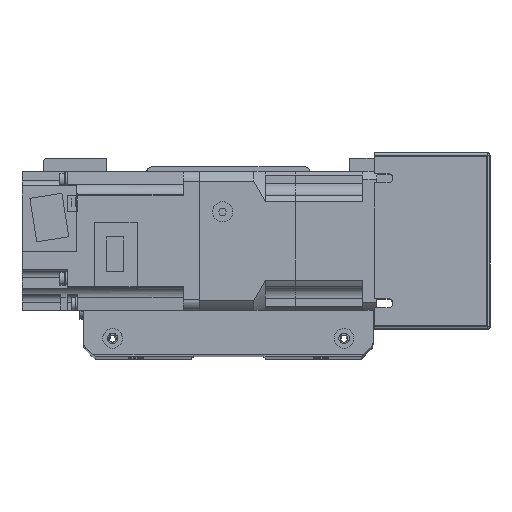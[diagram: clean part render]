
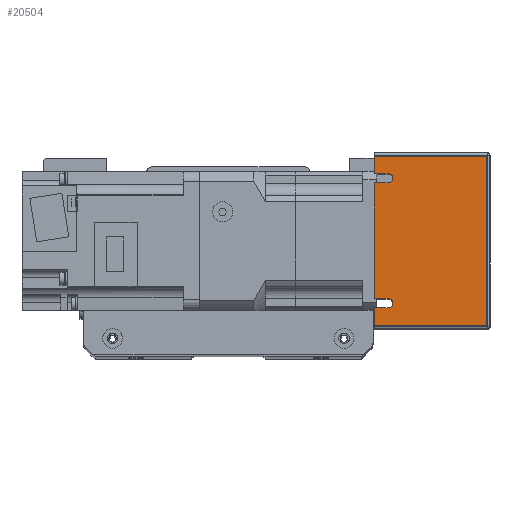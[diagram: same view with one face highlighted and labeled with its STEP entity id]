
A CAD part, top view. The second image highlights one B-rep face of the part: STEP entity #20504.
In plain terms, the highlighted planar face has unit normal (0, 0, 1) as drawn and (-1, 0, 0) by its records, which use the part's own axes.
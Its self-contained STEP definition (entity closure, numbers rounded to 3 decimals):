
#665=PLANE('',#22661);
#1995=LINE('',#34265,#3619);
#2002=LINE('',#34281,#3626);
#2011=LINE('',#34301,#3635);
#2019=LINE('',#34319,#3643);
#2034=LINE('',#34362,#3658);
#2036=LINE('',#34369,#3660);
#2039=LINE('',#34378,#3663);
#2044=LINE('',#34392,#3668);
#2045=LINE('',#34394,#3669);
#2046=LINE('',#34395,#3670);
#3619=VECTOR('',#27876,10.);
#3626=VECTOR('',#27887,10.);
#3635=VECTOR('',#27900,10.);
#3643=VECTOR('',#27912,10.);
#3658=VECTOR('',#27957,10.);
#3660=VECTOR('',#27965,10.);
#3663=VECTOR('',#27974,10.);
#3668=VECTOR('',#27987,10.);
#3669=VECTOR('',#27988,10.);
#3670=VECTOR('',#27989,10.);
#5952=FACE_OUTER_BOUND('',#7524,.T.);
#7524=EDGE_LOOP('',(#17820,#17821,#17822,#17823,#17824,#17825,#17826,#17827,
#17828,#17829,#17830,#17831));
#8646=CIRCLE('',#22640,2.);
#8651=CIRCLE('',#22648,2.);
#10315=VERTEX_POINT('',#34262);
#10316=VERTEX_POINT('',#34264);
#10322=VERTEX_POINT('',#34278);
#10323=VERTEX_POINT('',#34280);
#10331=VERTEX_POINT('',#34298);
#10332=VERTEX_POINT('',#34300);
#10339=VERTEX_POINT('',#34316);
#10340=VERTEX_POINT('',#34318);
#10353=VERTEX_POINT('',#34361);
#10358=VERTEX_POINT('',#34376);
#10363=VERTEX_POINT('',#34391);
#10364=VERTEX_POINT('',#34393);
#12847=EDGE_CURVE('',#10315,#10316,#1995,.T.);
#12854=EDGE_CURVE('',#10322,#10323,#2002,.T.);
#12863=EDGE_CURVE('',#10331,#10332,#2011,.T.);
#12871=EDGE_CURVE('',#10339,#10340,#2019,.T.);
#12878=EDGE_CURVE('',#10323,#10315,#8646,.T.);
#12889=EDGE_CURVE('',#10340,#10331,#8651,.T.);
#12895=EDGE_CURVE('',#10353,#10332,#2034,.T.);
#12899=EDGE_CURVE('',#10339,#10316,#2036,.T.);
#12904=EDGE_CURVE('',#10322,#10358,#2039,.T.);
#12911=EDGE_CURVE('',#10358,#10363,#2044,.T.);
#12912=EDGE_CURVE('',#10363,#10364,#2045,.T.);
#12913=EDGE_CURVE('',#10364,#10353,#2046,.T.);
#17820=ORIENTED_EDGE('',*,*,#12847,.F.);
#17821=ORIENTED_EDGE('',*,*,#12878,.F.);
#17822=ORIENTED_EDGE('',*,*,#12854,.F.);
#17823=ORIENTED_EDGE('',*,*,#12904,.T.);
#17824=ORIENTED_EDGE('',*,*,#12911,.T.);
#17825=ORIENTED_EDGE('',*,*,#12912,.T.);
#17826=ORIENTED_EDGE('',*,*,#12913,.T.);
#17827=ORIENTED_EDGE('',*,*,#12895,.T.);
#17828=ORIENTED_EDGE('',*,*,#12863,.F.);
#17829=ORIENTED_EDGE('',*,*,#12889,.F.);
#17830=ORIENTED_EDGE('',*,*,#12871,.F.);
#17831=ORIENTED_EDGE('',*,*,#12899,.T.);
#20504=ADVANCED_FACE('',(#5952),#665,.F.);
#22640=AXIS2_PLACEMENT_3D('',#34332,#27924,#27925);
#22648=AXIS2_PLACEMENT_3D('',#34350,#27946,#27947);
#22661=AXIS2_PLACEMENT_3D('',#34390,#27985,#27986);
#27876=DIRECTION('',(0.,0.,-1.));
#27887=DIRECTION('',(0.,0.,1.));
#27900=DIRECTION('',(0.,0.,-1.));
#27912=DIRECTION('',(0.,0.,1.));
#27924=DIRECTION('center_axis',(-1.,0.,0.));
#27925=DIRECTION('ref_axis',(0.,0.,-1.));
#27946=DIRECTION('center_axis',(-1.,0.,0.));
#27947=DIRECTION('ref_axis',(0.,0.,-1.));
#27957=DIRECTION('',(0.,-1.,0.));
#27965=DIRECTION('',(0.,-1.,0.));
#27974=DIRECTION('',(0.,-1.,0.));
#27985=DIRECTION('center_axis',(1.,0.,0.));
#27986=DIRECTION('ref_axis',(0.,-1.,0.));
#27987=DIRECTION('',(0.,0.,1.));
#27988=DIRECTION('',(0.,1.,0.));
#27989=DIRECTION('',(0.,0.,-1.));
#34262=CARTESIAN_POINT('',(-91.,-25.,-19.));
#34264=CARTESIAN_POINT('',(-91.,-25.,-25.));
#34265=CARTESIAN_POINT('',(-91.,-25.,-9.5));
#34278=CARTESIAN_POINT('',(-91.,-29.,-25.));
#34280=CARTESIAN_POINT('',(-91.,-29.,-19.));
#34281=CARTESIAN_POINT('',(-91.,-29.,-15.178));
#34298=CARTESIAN_POINT('',(-91.,29.,-19.));
#34300=CARTESIAN_POINT('',(-91.,29.,-25.));
#34301=CARTESIAN_POINT('',(-91.,29.,-9.5));
#34316=CARTESIAN_POINT('',(-91.,25.,-25.));
#34318=CARTESIAN_POINT('',(-91.,25.,-19.));
#34319=CARTESIAN_POINT('',(-91.,25.,-15.178));
#34332=CARTESIAN_POINT('Origin',(-91.,-27.,-19.));
#34350=CARTESIAN_POINT('Origin',(-91.,27.,-19.));
#34361=CARTESIAN_POINT('',(-91.,37.,-25.));
#34362=CARTESIAN_POINT('',(-91.,-38.,-25.));
#34369=CARTESIAN_POINT('',(-91.,-38.,-25.));
#34376=CARTESIAN_POINT('',(-91.,-37.,-25.));
#34378=CARTESIAN_POINT('',(-91.,-38.,-25.));
#34390=CARTESIAN_POINT('Origin',(-91.,38.,0.));
#34391=CARTESIAN_POINT('',(-91.,-37.,24.));
#34392=CARTESIAN_POINT('',(-91.,-37.,0.));
#34393=CARTESIAN_POINT('',(-91.,37.,24.));
#34394=CARTESIAN_POINT('',(-91.,19.,24.));
#34395=CARTESIAN_POINT('',(-91.,37.,0.));
